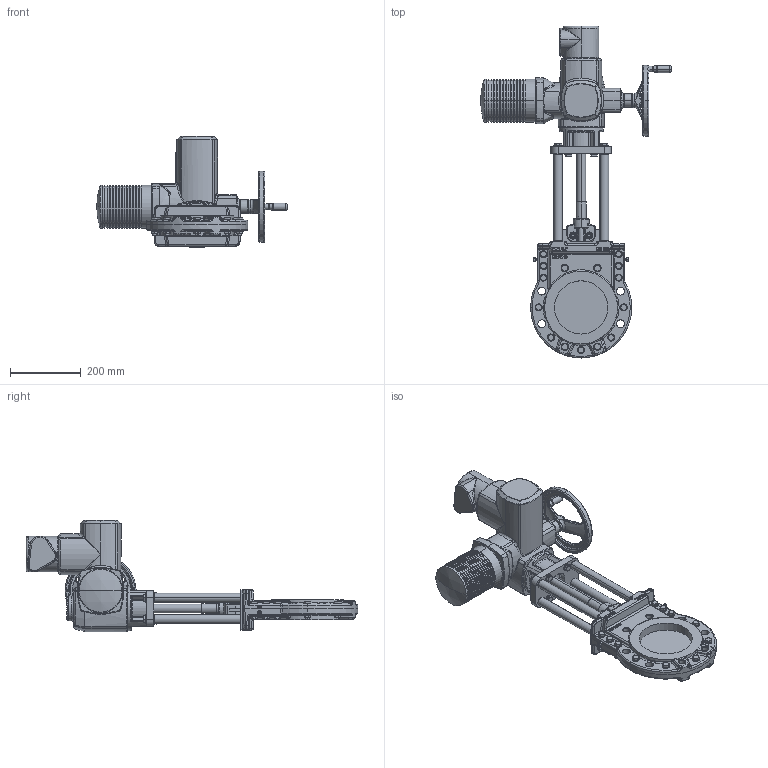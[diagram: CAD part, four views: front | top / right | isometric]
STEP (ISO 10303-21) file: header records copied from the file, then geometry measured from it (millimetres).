
FILE_DESCRIPTION (( 'STEP AP214' ), '1' );
FILE_NAME ('MGE DN 0150 PN10_16 (SA 10.2).STEP', '2015-09-23T08:46:11', ( 'admin' ), ( 'Hewlett-Packard Company' ), 'SwSTEP 2.0', 'SolidWorks 2013', '' );
FILE_SCHEMA (( 'AUTOMOTIVE_DESIGN' ));
Length unit declared in the file: millimetre
Products named in the file (1): MGE DN 0150 PN10_16 (SA 10.2)
Bounding box: 537 x 935 x 313 mm (x, y, z)
Volume: 13253224.3 mm3; surface area: 1038626.5 mm2
Topology: 73 solids, 83 shells, 2977 faces, 6835 edges, 4066 vertices
Faces by surface type: plane 1012, cylinder 788, cone 528, bspline 385, torus 224, sphere 40
Entity records: 140541 total; most frequent: CARTESIAN_POINT 42358, ORIENTED_EDGE 13494, DIRECTION 13371, EDGE_CURVE 6747, AXIS2_PLACEMENT_3D 5422, VERTEX_POINT 4066, EDGE_LOOP 3259, UNCERTAINTY_MEASURE_WITH_UNIT 3050
